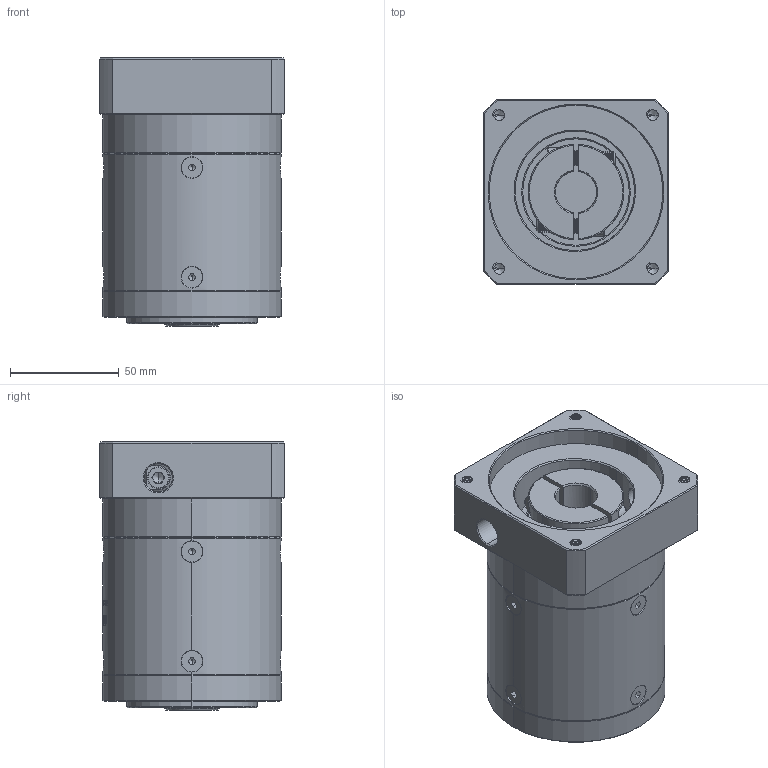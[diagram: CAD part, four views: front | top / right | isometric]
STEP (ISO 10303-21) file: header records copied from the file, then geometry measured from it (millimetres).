
FILE_DESCRIPTION (( 'STEP AP214' ), '1' );
FILE_NAME ('ZE80-K15-L2-19-80-100-M6.step', '2022-05-08T05:58:07', ( '' ), ( 'Microsoft' ), 'SwSTEP 2.0', 'SolidWorks 2016', '' );
FILE_SCHEMA (( 'AUTOMOTIVE_DESIGN' ));
Length unit declared in the file: millimetre
Products named in the file (1): ZE80-K15-L2-19-80-100-M6
Bounding box: 85 x 85 x 123.5 mm (x, y, z)
Volume: 594561.4 mm3; surface area: 89031.3 mm2
Topology: 13 solids, 13 shells, 2015 faces, 5250 edges, 3323 vertices
Faces by surface type: plane 884, cylinder 473, bspline 322, cone 319, torus 17
Entity records: 112194 total; most frequent: CARTESIAN_POINT 44768, ORIENTED_EDGE 10428, DIRECTION 8045, EDGE_CURVE 5214, VERTEX_POINT 3323, LINE 2815, VECTOR 2815, AXIS2_PLACEMENT_3D 2615
